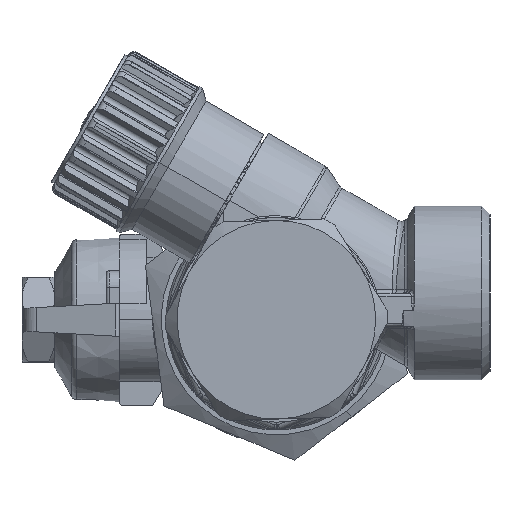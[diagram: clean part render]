
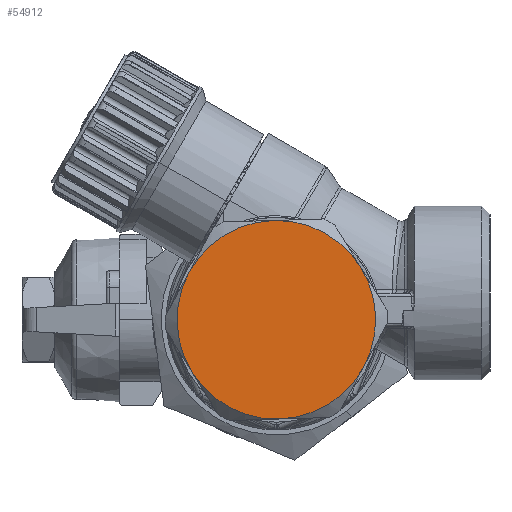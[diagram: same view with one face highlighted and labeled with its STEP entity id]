
A CAD part, left-side view. The second image highlights one B-rep face of the part: STEP entity #54912.
In plain terms, the highlighted planar face has unit normal (-1, 0, 0) as drawn and (0, 0, -1) by its records, which use the part's own axes.
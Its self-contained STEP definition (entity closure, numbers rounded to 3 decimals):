
#839 = ORIENTED_EDGE ( 'NONE', *, *, #88299, .F. ) ;
#1292 = DIRECTION ( 'NONE',  ( -1., 0., 0. ) ) ;
#2281 = CIRCLE ( 'NONE', #38766, 14.875 ) ;
#3786 = CARTESIAN_POINT ( 'NONE',  ( 0., 0., 0. ) ) ;
#4788 = FACE_OUTER_BOUND ( 'NONE', #59915, .T. ) ;
#11609 = AXIS2_PLACEMENT_3D ( 'NONE', #93000, #85558, #92522 ) ;
#12089 = DIRECTION ( 'NONE',  ( 0., 0., 1. ) ) ;
#13400 = EDGE_CURVE ( 'NONE', #94032, #16327, #2281, .T. ) ;
#13832 = DIRECTION ( 'NONE',  ( 0., 0., 1. ) ) ;
#14258 = AXIS2_PLACEMENT_3D ( 'NONE', #56152, #56639, #86491 ) ;
#16327 = VERTEX_POINT ( 'NONE', #40976 ) ;
#17323 = VERTEX_POINT ( 'NONE', #73504 ) ;
#18064 = ORIENTED_EDGE ( 'NONE', *, *, #68351, .F. ) ;
#18399 = AXIS2_PLACEMENT_3D ( 'NONE', #56724, #12089, #33935 ) ;
#19188 = DIRECTION ( 'NONE',  ( 0., 0., 1. ) ) ;
#19356 = CARTESIAN_POINT ( 'NONE',  ( 7.438, -12.882, 0. ) ) ;
#20044 = CIRCLE ( 'NONE', #18399, 14.875 ) ;
#21861 = ORIENTED_EDGE ( 'NONE', *, *, #96873, .F. ) ;
#24526 = DIRECTION ( 'NONE',  ( 0., 0., 1. ) ) ;
#25952 = EDGE_CURVE ( 'NONE', #82651, #65306, #28367, .T. ) ;
#28100 = PLANE ( 'NONE',  #40998 ) ;
#28367 = CIRCLE ( 'NONE', #52180, 14.875 ) ;
#31975 = CARTESIAN_POINT ( 'NONE',  ( 0., 0., 0. ) ) ;
#33935 = DIRECTION ( 'NONE',  ( 1., 0., 0. ) ) ;
#34862 = CARTESIAN_POINT ( 'NONE',  ( -7.438, 12.882, 0. ) ) ;
#37150 = DIRECTION ( 'NONE',  ( 1., 0., 0. ) ) ;
#38766 = AXIS2_PLACEMENT_3D ( 'NONE', #66448, #13832, #37150 ) ;
#39023 = CARTESIAN_POINT ( 'NONE',  ( 0., 0., 0. ) ) ;
#40976 = CARTESIAN_POINT ( 'NONE',  ( -7.437, -12.882, 0. ) ) ;
#40998 = AXIS2_PLACEMENT_3D ( 'NONE', #3786, #19188, #73277 ) ;
#42128 = VERTEX_POINT ( 'NONE', #34862 ) ;
#43677 = ORIENTED_EDGE ( 'NONE', *, *, #91879, .T. ) ;
#52180 = AXIS2_PLACEMENT_3D ( 'NONE', #31975, #24526, #53801 ) ;
#53801 = DIRECTION ( 'NONE',  ( 1., 0., 0. ) ) ;
#54363 = CIRCLE ( 'NONE', #11609, 14.875 ) ;
#54912 = ADVANCED_FACE ( 'NONE', ( #4788 ), #28100, .F. ) ;
#56152 = CARTESIAN_POINT ( 'NONE',  ( 0., 0., 0. ) ) ;
#56639 = DIRECTION ( 'NONE',  ( 0., 0., 1. ) ) ;
#56724 = CARTESIAN_POINT ( 'NONE',  ( 0., 0., 0. ) ) ;
#59915 = EDGE_LOOP ( 'NONE', ( #21861, #87700, #18064, #64288, #43677, #839 ) ) ;
#64288 = ORIENTED_EDGE ( 'NONE', *, *, #13400, .F. ) ;
#65306 = VERTEX_POINT ( 'NONE', #79776 ) ;
#66448 = CARTESIAN_POINT ( 'NONE',  ( 0., 0., 0. ) ) ;
#68351 = EDGE_CURVE ( 'NONE', #16327, #82651, #93536, .T. ) ;
#69314 = DIRECTION ( 'NONE',  ( 0., 0., -1. ) ) ;
#71558 = CIRCLE ( 'NONE', #74762, 14.875 ) ;
#73277 = DIRECTION ( 'NONE',  ( 1., 0., 0. ) ) ;
#73504 = CARTESIAN_POINT ( 'NONE',  ( 7.437, 12.882, 0. ) ) ;
#74762 = AXIS2_PLACEMENT_3D ( 'NONE', #39023, #69314, #1292 ) ;
#79776 = CARTESIAN_POINT ( 'NONE',  ( 14.875, 0., 0. ) ) ;
#80539 = CARTESIAN_POINT ( 'NONE',  ( -14.875, 0., 0. ) ) ;
#82651 = VERTEX_POINT ( 'NONE', #19356 ) ;
#85558 = DIRECTION ( 'NONE',  ( 0., 0., 1. ) ) ;
#86491 = DIRECTION ( 'NONE',  ( 1., 0., 0. ) ) ;
#87700 = ORIENTED_EDGE ( 'NONE', *, *, #25952, .F. ) ;
#88299 = EDGE_CURVE ( 'NONE', #17323, #42128, #20044, .T. ) ;
#91879 = EDGE_CURVE ( 'NONE', #94032, #42128, #71558, .T. ) ;
#92522 = DIRECTION ( 'NONE',  ( 1., 0., 0. ) ) ;
#93000 = CARTESIAN_POINT ( 'NONE',  ( 0., 0., 0. ) ) ;
#93536 = CIRCLE ( 'NONE', #14258, 14.875 ) ;
#94032 = VERTEX_POINT ( 'NONE', #80539 ) ;
#96873 = EDGE_CURVE ( 'NONE', #65306, #17323, #54363, .T. ) ;
